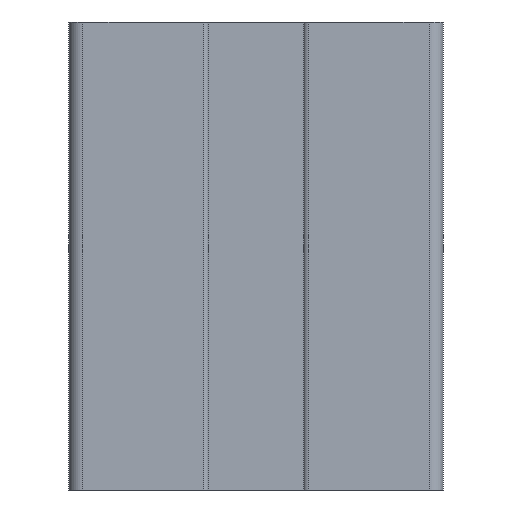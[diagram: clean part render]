
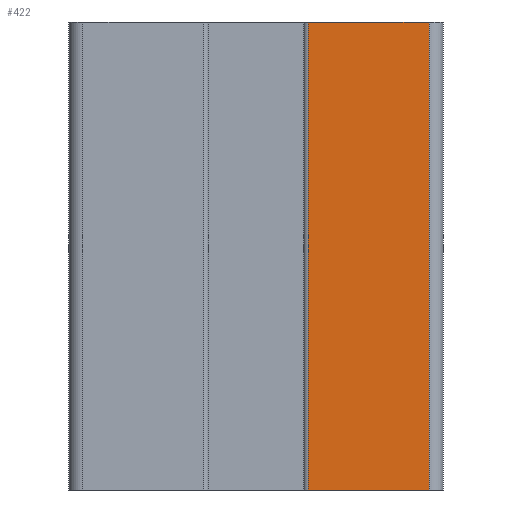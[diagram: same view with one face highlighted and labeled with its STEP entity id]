
A CAD part, front view. The second image highlights one B-rep face of the part: STEP entity #422.
In plain terms, the highlighted planar face has unit normal (0, -1, 0).
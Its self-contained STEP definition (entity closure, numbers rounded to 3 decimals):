
#422=ADVANCED_FACE('',(#929),#930,.F.);
#929=FACE_OUTER_BOUND('',#1528,.T.);
#930=PLANE('',#1529);
#1528=EDGE_LOOP('',(#2631,#2632,#2633,#2634));
#1529=AXIS2_PLACEMENT_3D('',#2635,#2636,#2637);
#2631=ORIENTED_EDGE('',*,*,#4197,.T.);
#2632=ORIENTED_EDGE('',*,*,#4198,.F.);
#2633=ORIENTED_EDGE('',*,*,#4199,.F.);
#2634=ORIENTED_EDGE('',*,*,#4127,.T.);
#2635=CARTESIAN_POINT('',(25.6,0.0,50.0));
#2636=DIRECTION('',(0.0,1.0,0.0));
#2637=DIRECTION('',(0.0,0.0,-1.0));
#4127=EDGE_CURVE('',#5160,#5158,#5161,.T.);
#4197=EDGE_CURVE('',#5158,#5263,#5264,.T.);
#4198=EDGE_CURVE('',#5265,#5263,#5266,.T.);
#4199=EDGE_CURVE('',#5160,#5265,#5267,.T.);
#5158=VERTEX_POINT('',#6525);
#5160=VERTEX_POINT('',#6527);
#5161=LINE('',#6528,#6529);
#5263=VERTEX_POINT('',#6667);
#5264=LINE('',#6668,#6669);
#5265=VERTEX_POINT('',#6670);
#5266=LINE('',#6671,#6672);
#5267=LINE('',#6673,#6674);
#6525=CARTESIAN_POINT('',(25.6,0.,0.0));
#6527=CARTESIAN_POINT('',(25.6,0.,50.0));
#6528=CARTESIAN_POINT('',(25.6,0.,50.0));
#6529=VECTOR('',#7670,1.0);
#6667=CARTESIAN_POINT('',(38.5,0.0,0.0));
#6668=CARTESIAN_POINT('',(25.6,0.0,0.0));
#6669=VECTOR('',#7752,1.0);
#6670=CARTESIAN_POINT('',(38.5,0.0,50.0));
#6671=CARTESIAN_POINT('',(38.5,0.0,50.0));
#6672=VECTOR('',#7753,1.0);
#6673=CARTESIAN_POINT('',(25.6,0.0,50.0));
#6674=VECTOR('',#7754,1.0);
#7670=DIRECTION('',(0.0,0.0,-1.0));
#7752=DIRECTION('',(1.0,0.0,0.0));
#7753=DIRECTION('',(0.0,0.0,-1.0));
#7754=DIRECTION('',(1.0,0.0,0.0));
